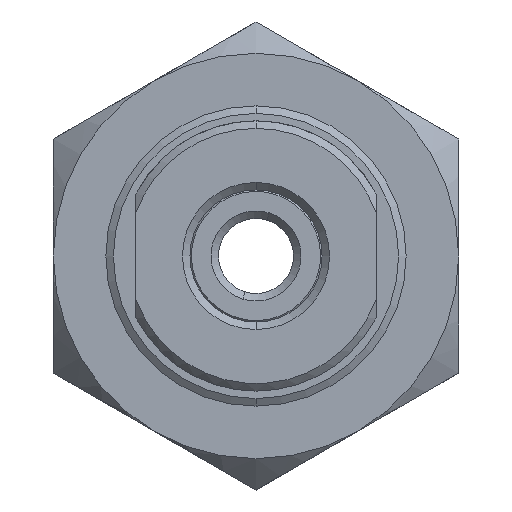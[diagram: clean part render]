
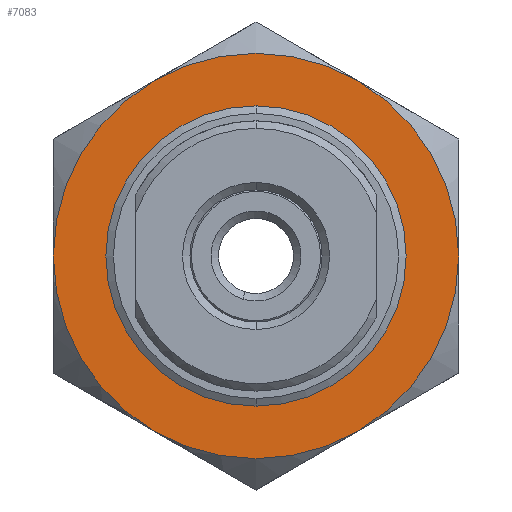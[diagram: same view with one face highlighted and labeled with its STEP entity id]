
A CAD part, front view. The second image highlights one B-rep face of the part: STEP entity #7083.
In plain terms, the highlighted planar face has unit normal (0, -1, 0).
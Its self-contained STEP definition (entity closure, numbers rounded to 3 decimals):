
#192 = FACE_OUTER_BOUND ( 'NONE', #1714, .T. ) ;
#489 = DIRECTION ( 'NONE',  ( 0., 1., 0. ) ) ;
#496 = AXIS2_PLACEMENT_3D ( 'NONE', #7910, #7836, #12652 ) ;
#1090 = VERTEX_POINT ( 'NONE', #12434 ) ;
#1252 = PLANE ( 'NONE',  #2953 ) ;
#1523 = EDGE_CURVE ( 'NONE', #1090, #2878, #7068, .T. ) ;
#1617 = CIRCLE ( 'NONE', #10162, 13.498 ) ;
#1624 = CARTESIAN_POINT ( 'NONE',  ( 0., -3., -9.5 ) ) ;
#1684 = DIRECTION ( 'NONE',  ( 0., 0., 1. ) ) ;
#1714 = EDGE_LOOP ( 'NONE', ( #12513, #13336 ) ) ;
#1883 = DIRECTION ( 'NONE',  ( 0., 1., 0. ) ) ;
#2389 = CARTESIAN_POINT ( 'NONE',  ( 0., -3., -13.498 ) ) ;
#2471 = DIRECTION ( 'NONE',  ( 0., 1., 0. ) ) ;
#2878 = VERTEX_POINT ( 'NONE', #2389 ) ;
#2953 = AXIS2_PLACEMENT_3D ( 'NONE', #12945, #2471, #7127 ) ;
#3499 = CARTESIAN_POINT ( 'NONE',  ( 0., -3., 0. ) ) ;
#4526 = CIRCLE ( 'NONE', #12838, 9.5 ) ;
#5696 = CARTESIAN_POINT ( 'NONE',  ( 0., -3., 0. ) ) ;
#7068 = CIRCLE ( 'NONE', #496, 13.498 ) ;
#7083 = ADVANCED_FACE ( 'NONE', ( #192, #11715 ), #1252, .F. ) ;
#7093 = DIRECTION ( 'NONE',  ( 0., 0., 1. ) ) ;
#7127 = DIRECTION ( 'NONE',  ( 0., 0., 1. ) ) ;
#7204 = AXIS2_PLACEMENT_3D ( 'NONE', #9787, #489, #1684 ) ;
#7836 = DIRECTION ( 'NONE',  ( 0., 1., 0. ) ) ;
#7910 = CARTESIAN_POINT ( 'NONE',  ( 0., -3., 0. ) ) ;
#8091 = CARTESIAN_POINT ( 'NONE',  ( 0., -3., 9.5 ) ) ;
#9243 = DIRECTION ( 'NONE',  ( 0., 1., 0. ) ) ;
#9787 = CARTESIAN_POINT ( 'NONE',  ( 0., -3., 0. ) ) ;
#10162 = AXIS2_PLACEMENT_3D ( 'NONE', #3499, #9243, #7093 ) ;
#10219 = EDGE_CURVE ( 'NONE', #10495, #12718, #4526, .T. ) ;
#10495 = VERTEX_POINT ( 'NONE', #1624 ) ;
#11017 = EDGE_CURVE ( 'NONE', #12718, #10495, #13795, .T. ) ;
#11715 = FACE_BOUND ( 'NONE', #12189, .T. ) ;
#12189 = EDGE_LOOP ( 'NONE', ( #12925, #14621 ) ) ;
#12434 = CARTESIAN_POINT ( 'NONE',  ( 0., -3., 13.498 ) ) ;
#12513 = ORIENTED_EDGE ( 'NONE', *, *, #1523, .F. ) ;
#12652 = DIRECTION ( 'NONE',  ( 0., 0., 1. ) ) ;
#12718 = VERTEX_POINT ( 'NONE', #8091 ) ;
#12760 = EDGE_CURVE ( 'NONE', #2878, #1090, #1617, .T. ) ;
#12838 = AXIS2_PLACEMENT_3D ( 'NONE', #5696, #1883, #14780 ) ;
#12925 = ORIENTED_EDGE ( 'NONE', *, *, #11017, .T. ) ;
#12945 = CARTESIAN_POINT ( 'NONE',  ( 0., -3., 0. ) ) ;
#13336 = ORIENTED_EDGE ( 'NONE', *, *, #12760, .F. ) ;
#13795 = CIRCLE ( 'NONE', #7204, 9.5 ) ;
#14621 = ORIENTED_EDGE ( 'NONE', *, *, #10219, .T. ) ;
#14780 = DIRECTION ( 'NONE',  ( 0., 0., 1. ) ) ;
